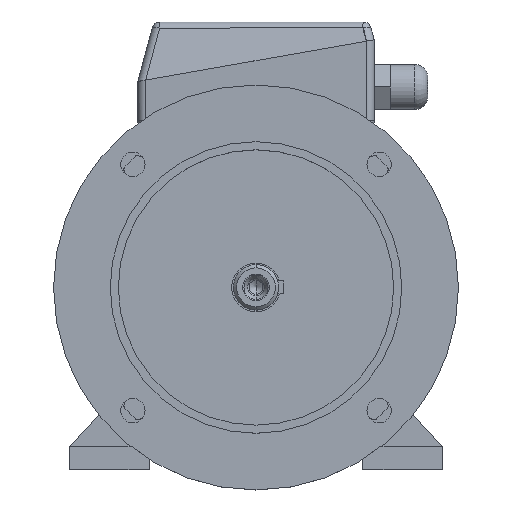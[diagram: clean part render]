
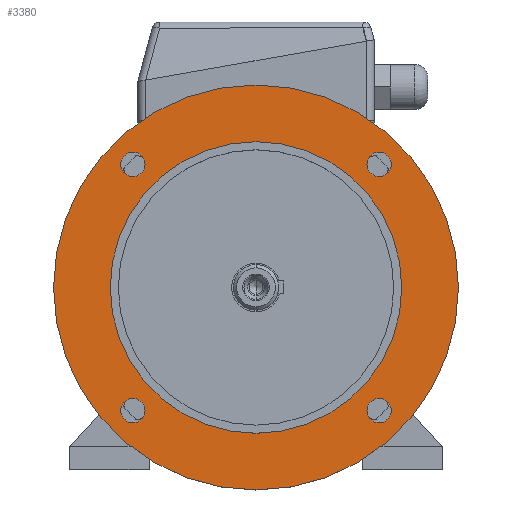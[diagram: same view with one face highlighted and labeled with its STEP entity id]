
A CAD part, top view. The second image highlights one B-rep face of the part: STEP entity #3380.
In plain terms, the highlighted planar face has unit normal (0, 0, 1).
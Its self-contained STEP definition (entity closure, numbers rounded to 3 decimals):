
#2091 = EDGE_CURVE ( 'NONE', #7822, #9285, #3711, .T. ) ;
#2149 = VERTEX_POINT ( 'NONE', #3736 ) ;
#2510 = ORIENTED_EDGE ( 'NONE', *, *, #2091, .F. ) ;
#3008 = VERTEX_POINT ( 'NONE', #4250 ) ;
#3111 = EDGE_LOOP ( 'NONE', ( #2510, #12293 ) ) ;
#3249 = EDGE_CURVE ( 'NONE', #4280, #3008, #4354, .T. ) ;
#3380 = ADVANCED_FACE ( 'NONE', ( #4415, #4416, #4417, #4418, #4419, #4420 ), #4421, .F. ) ;
#3711 = CIRCLE ( 'NONE', #3712, 7.5 ) ;
#3712 = AXIS2_PLACEMENT_3D ( 'NONE', #3713, #3714, #3715 ) ;
#3713 = CARTESIAN_POINT ( 'NONE',  ( 76.014, 76.014, 51. ) ) ;
#3714 = DIRECTION ( 'NONE',  ( 0., 0., 1. ) ) ;
#3715 = DIRECTION ( 'NONE',  ( 1., 0., 0. ) ) ;
#3736 = CARTESIAN_POINT ( 'NONE',  ( -125., 0., 51. ) ) ;
#4250 = CARTESIAN_POINT ( 'NONE',  ( -68.514, 76.014, 51. ) ) ;
#4280 = VERTEX_POINT ( 'NONE', #4945 ) ;
#4354 = CIRCLE ( 'NONE', #4355, 7.5 ) ;
#4355 = AXIS2_PLACEMENT_3D ( 'NONE', #4356, #4357, #4358 ) ;
#4356 = CARTESIAN_POINT ( 'NONE',  ( -76.014, 76.014, 51. ) ) ;
#4357 = DIRECTION ( 'NONE',  ( 0., 0., 1. ) ) ;
#4358 = DIRECTION ( 'NONE',  ( 1., 0., 0. ) ) ;
#4415 = FACE_BOUND ( 'NONE', #3111, .T. ) ;
#4416 = FACE_BOUND ( 'NONE', #12009, .T. ) ;
#4417 = FACE_BOUND ( 'NONE', #10117, .T. ) ;
#4418 = FACE_OUTER_BOUND ( 'NONE', #8242, .T. ) ;
#4419 = FACE_BOUND ( 'NONE', #14375, .T. ) ;
#4420 = FACE_BOUND ( 'NONE', #13852, .T. ) ;
#4421 = PLANE ( 'NONE',  #4422 ) ;
#4422 = AXIS2_PLACEMENT_3D ( 'NONE', #4423, #4424, #4425 ) ;
#4423 = CARTESIAN_POINT ( 'NONE',  ( 0., 125., 51. ) ) ;
#4424 = DIRECTION ( 'NONE',  ( 0., 0., -1. ) ) ;
#4425 = DIRECTION ( 'NONE',  ( -1., 0., 0. ) ) ;
#4945 = CARTESIAN_POINT ( 'NONE',  ( -83.514, 76.014, 51. ) ) ;
#6861 = CARTESIAN_POINT ( 'NONE',  ( 83.514, 76.014, 51. ) ) ;
#7054 = ORIENTED_EDGE ( 'NONE', *, *, #14443, .T. ) ;
#7081 = CIRCLE ( 'NONE', #7082, 7.5 ) ;
#7082 = AXIS2_PLACEMENT_3D ( 'NONE', #7083, #7084, #7085 ) ;
#7083 = CARTESIAN_POINT ( 'NONE',  ( 76.014, 76.014, 51. ) ) ;
#7084 = DIRECTION ( 'NONE',  ( 0., 0., 1. ) ) ;
#7085 = DIRECTION ( 'NONE',  ( 1., 0., 0. ) ) ;
#7266 = CARTESIAN_POINT ( 'NONE',  ( -90., 0., 51. ) ) ;
#7281 = CIRCLE ( 'NONE', #7282, 90. ) ;
#7282 = AXIS2_PLACEMENT_3D ( 'NONE', #7283, #7284, #7285 ) ;
#7283 = CARTESIAN_POINT ( 'NONE',  ( 0., 0., 51. ) ) ;
#7284 = DIRECTION ( 'NONE',  ( 0., 0., 1. ) ) ;
#7285 = DIRECTION ( 'NONE',  ( 1., 0., 0. ) ) ;
#7346 = CARTESIAN_POINT ( 'NONE',  ( 90., 0., 51. ) ) ;
#7509 = CIRCLE ( 'NONE', #7510, 90. ) ;
#7510 = AXIS2_PLACEMENT_3D ( 'NONE', #7511, #7512, #7513 ) ;
#7511 = CARTESIAN_POINT ( 'NONE',  ( 0., 0., 51. ) ) ;
#7512 = DIRECTION ( 'NONE',  ( 0., 0., 1. ) ) ;
#7513 = DIRECTION ( 'NONE',  ( 1., 0., 0. ) ) ;
#7656 = ORIENTED_EDGE ( 'NONE', *, *, #11945, .T. ) ;
#7731 = CARTESIAN_POINT ( 'NONE',  ( 68.514, 76.014, 51. ) ) ;
#7822 = VERTEX_POINT ( 'NONE', #6861 ) ;
#8084 = EDGE_CURVE ( 'NONE', #9285, #7822, #7081, .T. ) ;
#8242 = EDGE_LOOP ( 'NONE', ( #7656, #7054 ) ) ;
#8437 = VERTEX_POINT ( 'NONE', #7266 ) ;
#8518 = EDGE_CURVE ( 'NONE', #8437, #8685, #7281, .T. ) ;
#8575 = CIRCLE ( 'NONE', #8576, 7.5 ) ;
#8576 = AXIS2_PLACEMENT_3D ( 'NONE', #8577, #8585, #8586 ) ;
#8577 = CARTESIAN_POINT ( 'NONE',  ( -76.014, -76.014, 51. ) ) ;
#8585 = DIRECTION ( 'NONE',  ( 0., 0., 1. ) ) ;
#8586 = DIRECTION ( 'NONE',  ( 1., 0., 0. ) ) ;
#8685 = VERTEX_POINT ( 'NONE', #7346 ) ;
#8934 = EDGE_CURVE ( 'NONE', #8685, #8437, #7509, .T. ) ;
#8935 = ORIENTED_EDGE ( 'NONE', *, *, #8518, .F. ) ;
#8944 = CARTESIAN_POINT ( 'NONE',  ( 125., 0., 51. ) ) ;
#9092 = CIRCLE ( 'NONE', #9093, 125. ) ;
#9093 = AXIS2_PLACEMENT_3D ( 'NONE', #9094, #9095, #9096 ) ;
#9094 = CARTESIAN_POINT ( 'NONE',  ( 0., 0., 51. ) ) ;
#9095 = DIRECTION ( 'NONE',  ( 0., 0., 1. ) ) ;
#9096 = DIRECTION ( 'NONE',  ( 1., 0., 0. ) ) ;
#9285 = VERTEX_POINT ( 'NONE', #7731 ) ;
#9534 = ORIENTED_EDGE ( 'NONE', *, *, #8934, .F. ) ;
#9612 = CARTESIAN_POINT ( 'NONE',  ( 83.514, -76.014, 51. ) ) ;
#9808 = CIRCLE ( 'NONE', #9809, 7.5 ) ;
#9809 = AXIS2_PLACEMENT_3D ( 'NONE', #9810, #9811, #9812 ) ;
#9810 = CARTESIAN_POINT ( 'NONE',  ( 76.014, -76.014, 51. ) ) ;
#9811 = DIRECTION ( 'NONE',  ( 0., 0., 1. ) ) ;
#9812 = DIRECTION ( 'NONE',  ( 1., 0., 0. ) ) ;
#10117 = EDGE_LOOP ( 'NONE', ( #9534, #8935 ) ) ;
#10292 = CIRCLE ( 'NONE', #10293, 7.5 ) ;
#10293 = AXIS2_PLACEMENT_3D ( 'NONE', #10294, #10295, #10296 ) ;
#10294 = CARTESIAN_POINT ( 'NONE',  ( -76.014, 76.014, 51. ) ) ;
#10295 = DIRECTION ( 'NONE',  ( 0., 0., 1. ) ) ;
#10296 = DIRECTION ( 'NONE',  ( 1., 0., 0. ) ) ;
#10349 = CARTESIAN_POINT ( 'NONE',  ( 68.514, -76.014, 51. ) ) ;
#10398 = ORIENTED_EDGE ( 'NONE', *, *, #14566, .F. ) ;
#10989 = EDGE_CURVE ( 'NONE', #14526, #14818, #8575, .T. ) ;
#11359 = CIRCLE ( 'NONE', #11360, 7.5 ) ;
#11360 = AXIS2_PLACEMENT_3D ( 'NONE', #11361, #11362, #11363 ) ;
#11361 = CARTESIAN_POINT ( 'NONE',  ( 76.014, -76.014, 51. ) ) ;
#11362 = DIRECTION ( 'NONE',  ( 0., 0., 1. ) ) ;
#11363 = DIRECTION ( 'NONE',  ( 1., 0., 0. ) ) ;
#11423 = ORIENTED_EDGE ( 'NONE', *, *, #10989, .F. ) ;
#11696 = VERTEX_POINT ( 'NONE', #8944 ) ;
#11945 = EDGE_CURVE ( 'NONE', #11696, #2149, #9092, .T. ) ;
#12009 = EDGE_LOOP ( 'NONE', ( #11423, #10398 ) ) ;
#12150 = CIRCLE ( 'NONE', #12151, 125. ) ;
#12151 = AXIS2_PLACEMENT_3D ( 'NONE', #12152, #12153, #12154 ) ;
#12152 = CARTESIAN_POINT ( 'NONE',  ( 0., 0., 51. ) ) ;
#12153 = DIRECTION ( 'NONE',  ( 0., 0., 1. ) ) ;
#12154 = DIRECTION ( 'NONE',  ( 1., 0., 0. ) ) ;
#12293 = ORIENTED_EDGE ( 'NONE', *, *, #8084, .F. ) ;
#12372 = CARTESIAN_POINT ( 'NONE',  ( -68.514, -76.014, 51. ) ) ;
#12447 = CIRCLE ( 'NONE', #12448, 7.5 ) ;
#12448 = AXIS2_PLACEMENT_3D ( 'NONE', #12449, #12452, #12453 ) ;
#12449 = CARTESIAN_POINT ( 'NONE',  ( -76.014, -76.014, 51. ) ) ;
#12452 = DIRECTION ( 'NONE',  ( 0., 0., 1. ) ) ;
#12453 = DIRECTION ( 'NONE',  ( 1., 0., 0. ) ) ;
#12837 = VERTEX_POINT ( 'NONE', #9612 ) ;
#13020 = CARTESIAN_POINT ( 'NONE',  ( -83.514, -76.014, 51. ) ) ;
#13104 = EDGE_CURVE ( 'NONE', #13623, #12837, #9808, .T. ) ;
#13472 = ORIENTED_EDGE ( 'NONE', *, *, #3249, .F. ) ;
#13611 = EDGE_CURVE ( 'NONE', #3008, #4280, #10292, .T. ) ;
#13623 = VERTEX_POINT ( 'NONE', #10349 ) ;
#13716 = ORIENTED_EDGE ( 'NONE', *, *, #13611, .F. ) ;
#13852 = EDGE_LOOP ( 'NONE', ( #13716, #13472 ) ) ;
#13919 = ORIENTED_EDGE ( 'NONE', *, *, #13104, .F. ) ;
#14067 = EDGE_CURVE ( 'NONE', #12837, #13623, #11359, .T. ) ;
#14180 = ORIENTED_EDGE ( 'NONE', *, *, #14067, .F. ) ;
#14375 = EDGE_LOOP ( 'NONE', ( #14180, #13919 ) ) ;
#14443 = EDGE_CURVE ( 'NONE', #2149, #11696, #12150, .T. ) ;
#14526 = VERTEX_POINT ( 'NONE', #12372 ) ;
#14566 = EDGE_CURVE ( 'NONE', #14818, #14526, #12447, .T. ) ;
#14818 = VERTEX_POINT ( 'NONE', #13020 ) ;
